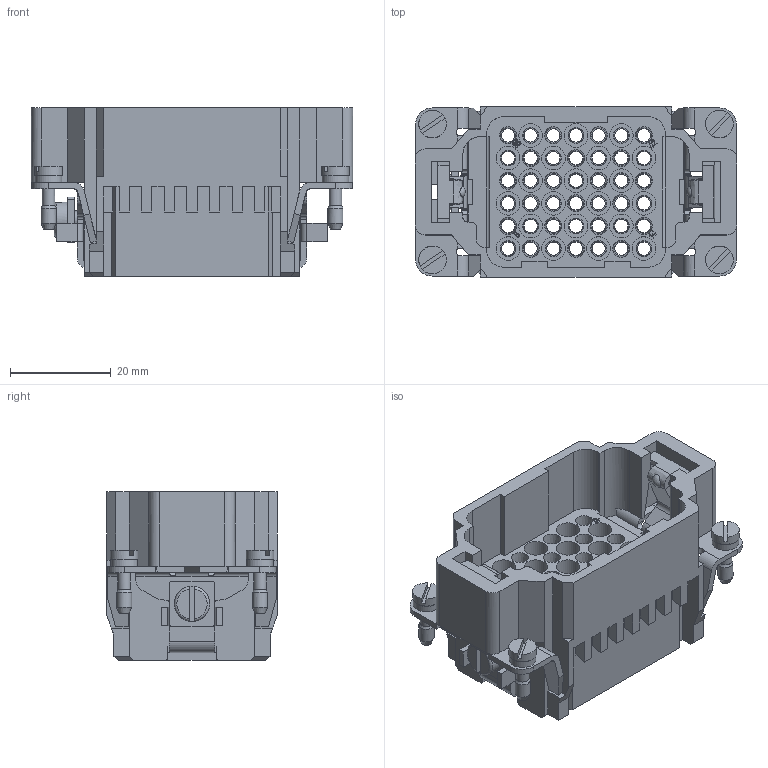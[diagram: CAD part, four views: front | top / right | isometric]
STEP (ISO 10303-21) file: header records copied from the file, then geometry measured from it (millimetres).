
FILE_DESCRIPTION(/* description */ (''),/* implementation_level */ '2;1');
FILE_NAME(/* name */ 'HDD-042-M.stp',/* time_stamp */ '2023-06-21T16:45:44+08:00',/* author */ (''),/* organization */ (''),/* preprocessor_version */ 'ST-DEVELOPER v16.7',/* originating_system */ 'SIEMENS PLM Software NX 12.0',/* authorisation */ '');
FILE_SCHEMA (('AUTOMOTIVE_DESIGN { 1 0 10303 214 3 1 1 1 }'));
Length unit declared in the file: millimetre
Products named in the file (1): 09160423001_100095190MOD000F_stp
Bounding box: 63.85 x 33.85 x 33.55 mm (x, y, z)
Volume: 23549.3 mm3; surface area: 24810.1 mm2
Topology: 5 solids, 5 shells, 1241 faces, 3106 edges, 1951 vertices
Faces by surface type: plane 626, cylinder 292, cone 176, extrusion 108, bspline 27, torus 8, sphere 4
Full cylindrical faces by diameter (mm): 0.6 x2, 2.349 x2, 2.5 x4, 2.519 x2, 2.62 x42, 3 x4, 3.24 x42, 3.242 x1, 3.4 x42, 3.5 x1, 3.7 x1, 3.9 x42, 4.7 x21, 5.3 x4, 5.5 x4, 7 x1
Entity records: 38482 total; most frequent: CARTESIAN_POINT 8004, DIRECTION 5399, ORIENTED_EDGE 5376, EDGE_CURVE 2688, VERTEX_POINT 1929, EDGE_LOOP 1821, AXIS2_PLACEMENT_3D 1806, VECTOR 1787
